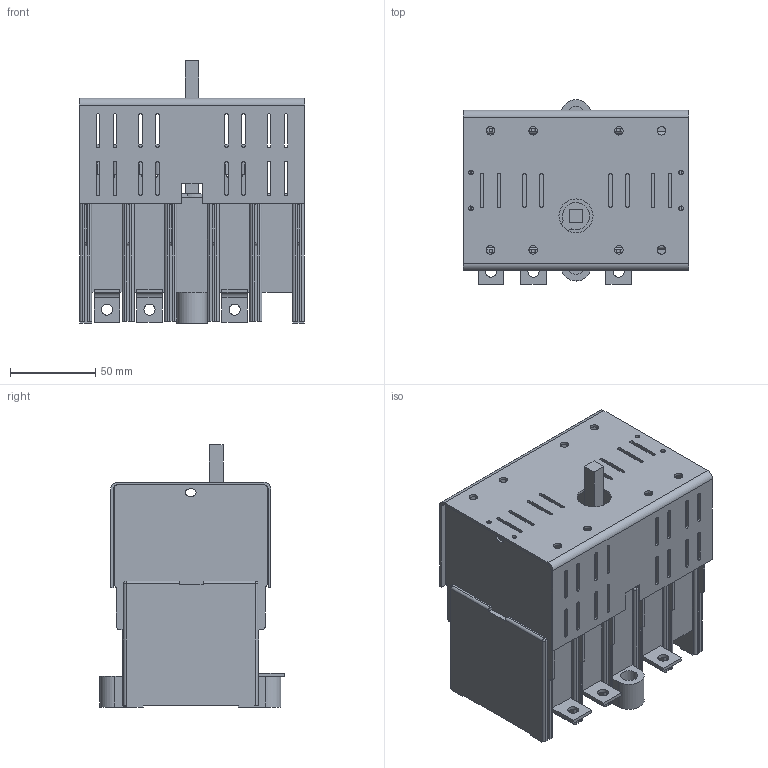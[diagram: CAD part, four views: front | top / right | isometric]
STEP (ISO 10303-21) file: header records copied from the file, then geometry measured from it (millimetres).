
FILE_DESCRIPTION(/* description */ (''),/* implementation_level */ '2;1');
FILE_NAME(/* name */ 'RAB 000 P3 A.stp',/* time_stamp */ '2021-08-19T09:40:39+02:00',/* author */ (''),/* organization */ (''),/* preprocessor_version */ 'ST-DEVELOPER v18.1',/* originating_system */ 'SIEMENS PLM Software NX 1965',/* authorisation */ '');
FILE_SCHEMA (('AUTOMOTIVE_DESIGN { 1 0 10303 214 3 1 1 1 }'));
Length unit declared in the file: millimetre
Products named in the file (1): RAB 000 P3 A_stp
Bounding box: 132.5 x 108.51 x 154 mm (x, y, z)
Volume: 738014.4 mm3; surface area: 207213.7 mm2
Topology: 1 solids, 1 shells, 1012 faces, 2873 edges, 1844 vertices
Faces by surface type: plane 651, cylinder 337, sphere 23, bspline 1
Full cylindrical faces by diameter (mm): 2.7 x4, 5 x8, 5.8 x2, 6.5 x6, 10 x2, 20 x1
Entity records: 32645 total; most frequent: CARTESIAN_POINT 5963, ORIENTED_EDGE 5632, DIRECTION 5419, EDGE_CURVE 2816, LINE 2075, VECTOR 2075, VERTEX_POINT 1834, AXIS2_PLACEMENT_3D 1672
